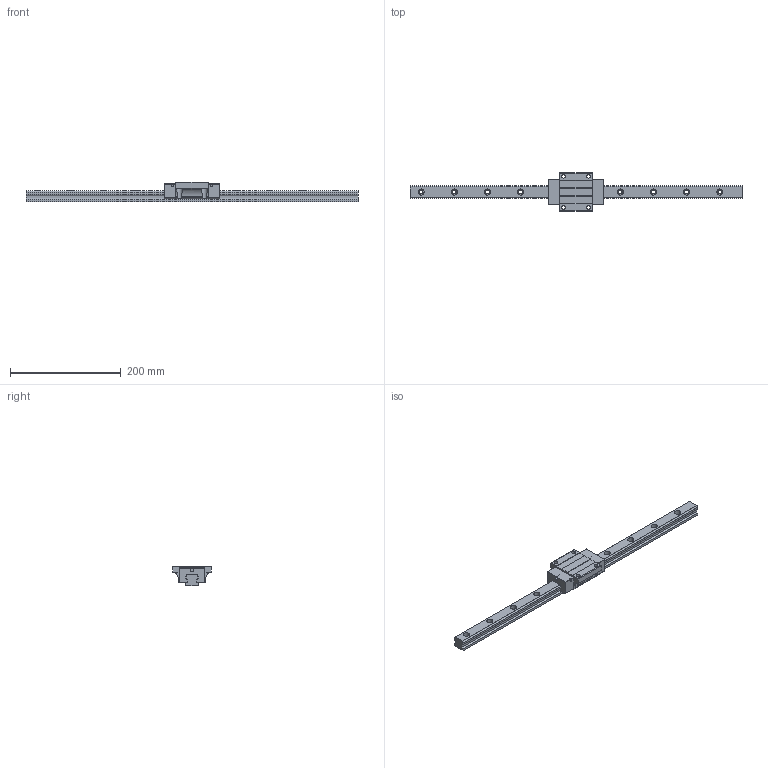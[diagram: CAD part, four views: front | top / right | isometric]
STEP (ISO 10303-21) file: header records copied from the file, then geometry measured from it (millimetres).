
FILE_DESCRIPTION (( 'STEP AP203' ), '1' );
FILE_NAME ('TRH25FN-WZ.STEP', '2024-05-09T01:23:53', ( '' ), ( '' ), 'SwSTEP 2.0', 'SolidWorks 2022', '' );
FILE_SCHEMA (( 'CONFIG_CONTROL_DESIGN' ));
Length unit declared in the file: millimetre
Products named in the file (1): TRH25FN-WZ
Bounding box: 600 x 70 x 36 mm (x, y, z)
Volume: 352941.1 mm3; surface area: 83891.9 mm2
Topology: 2 solids, 2 shells, 230 faces, 622 edges, 408 vertices
Faces by surface type: cylinder 130, plane 96, sphere 4
Entity records: 7873 total; most frequent: CARTESIAN_POINT 1819, DIRECTION 1274, ORIENTED_EDGE 1236, EDGE_CURVE 618, AXIS2_PLACEMENT_3D 459, VERTEX_POINT 408, VECTOR 356, LINE 356
